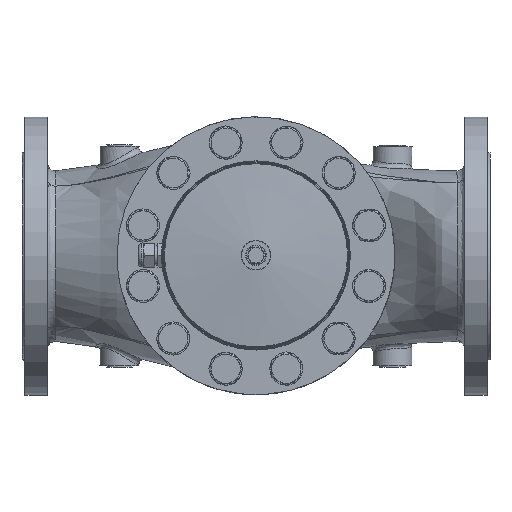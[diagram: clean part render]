
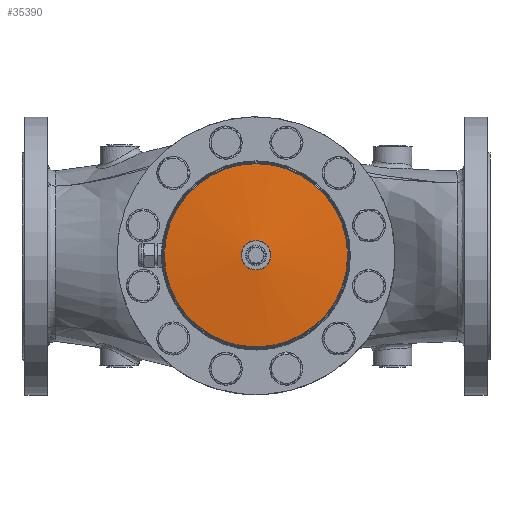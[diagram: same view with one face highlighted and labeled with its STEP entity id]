
A CAD part, top view. The second image highlights one B-rep face of the part: STEP entity #35390.
In plain terms, the highlighted conical face has half-angle 84.937 degrees and reference radius 55.344 mm.
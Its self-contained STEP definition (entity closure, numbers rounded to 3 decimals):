
#35328=CARTESIAN_POINT('',(-86.212,0.,537.002));
#35329=VERTEX_POINT('',#35328);
#35330=CARTESIAN_POINT('',(7.776,0.,537.002));
#35331=DIRECTION('',(0.0,0.0,-1.0));
#35332=DIRECTION('',(1.0,0.0,0.0));
#35333=AXIS2_PLACEMENT_3D('',#35330,#35331,#35332);
#35334=CIRCLE('',#35333,93.988);
#35335=EDGE_CURVE('',#35329,#35329,#35334,.T.);
#35371=CARTESIAN_POINT('',(7.776,0.,540.426));
#35372=DIRECTION('',(0.,0.,-1.0));
#35373=DIRECTION('',(-1.0,0.0,0.0));
#35374=AXIS2_PLACEMENT_3D('',#35371,#35372,#35373);
#35375=CONICAL_SURFACE('',#35374,55.344,84.937);
#35376=ORIENTED_EDGE('',*,*,#35335,.F.);
#35377=EDGE_LOOP('',(#35376));
#35378=FACE_OUTER_BOUND('',#35377,.T.);
#35379=CARTESIAN_POINT('',(-7.312,0.,543.992));
#35380=VERTEX_POINT('',#35379);
#35381=CARTESIAN_POINT('',(7.776,0.,543.992));
#35382=DIRECTION('',(0.0,0.0,1.0));
#35383=DIRECTION('',(1.0,0.0,0.0));
#35384=AXIS2_PLACEMENT_3D('',#35381,#35382,#35383);
#35385=CIRCLE('',#35384,15.088);
#35386=EDGE_CURVE('',#35380,#35380,#35385,.T.);
#35387=ORIENTED_EDGE('',*,*,#35386,.F.);
#35388=EDGE_LOOP('',(#35387));
#35389=FACE_BOUND('',#35388,.T.);
#35390=ADVANCED_FACE('',(#35378,#35389),#35375,.T.);
